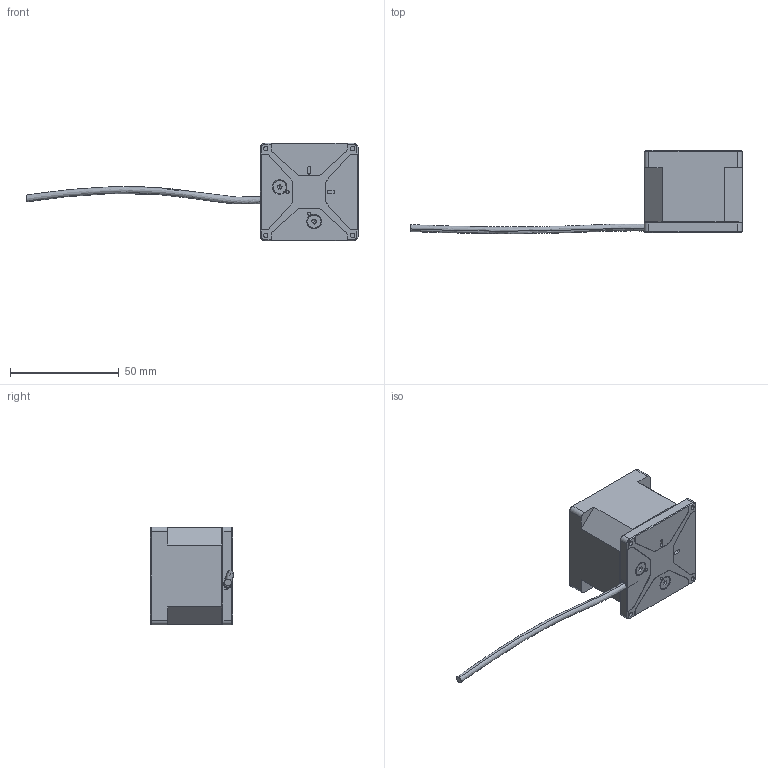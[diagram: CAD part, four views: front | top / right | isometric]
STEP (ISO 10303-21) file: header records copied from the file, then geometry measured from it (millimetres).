
FILE_DESCRIPTION (( 'STEP AP214' ), '1' );
FILE_NAME ('GO Elevation Stage.STEP', '2022-04-23T17:43:15', ( '' ), ( '' ), 'SwSTEP 2.0', 'SolidWorks 2016', '' );
FILE_SCHEMA (( 'AUTOMOTIVE_DESIGN' ));
Length unit declared in the file: millimetre
Products named in the file (8): PACK_SFB2_6; Cable; GO Elevation Stage; SNZS_M2_6; SFB3_6; Cable fastening; Lid Z stage; Bottom Z stage
Assembly tree (11 placements, depth 2):
  GO Elevation Stage
    Bottom Z stage
    Lid Z stage
    PACK_SFB2_6  x4
    Cable
    Cable fastening
    SFB3_6  x2
    SNZS_M2_6
Bounding box: 152.96 x 38.45 x 45 mm (x, y, z)
Volume: 29553.4 mm3; surface area: 24756.2 mm2
Topology: 11 solids, 11 shells, 643 faces, 1570 edges, 942 vertices
Faces by surface type: plane 284, cylinder 207, cone 146, torus 4, bspline 2
Entity records: 17340 total; most frequent: DIRECTION 2909, CARTESIAN_POINT 2856, ORIENTED_EDGE 2628, EDGE_CURVE 1314, AXIS2_PLACEMENT_3D 1041, VECTOR 827, LINE 827, VERTEX_POINT 826
